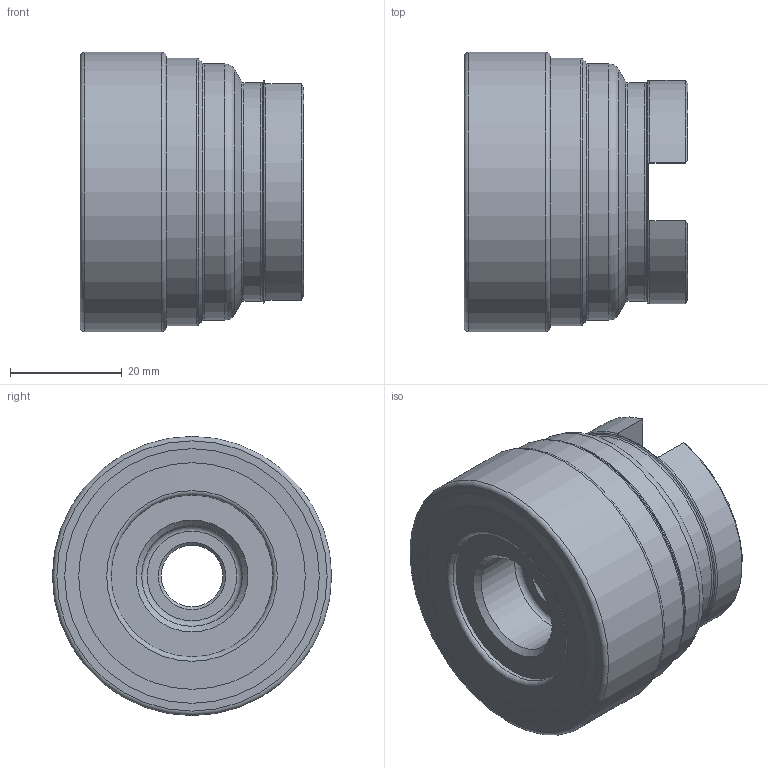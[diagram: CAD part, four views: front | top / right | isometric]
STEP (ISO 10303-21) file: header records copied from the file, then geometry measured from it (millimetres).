
FILE_DESCRIPTION(/* description */ (''),/* implementation_level */ '2;1');
FILE_NAME(/* name */ 'emp13-050-a22-an15-04c.stp',/* time_stamp */ '2018-11-20T13:40:04+08:00',/* author */ (''),/* organization */ (''),/* preprocessor_version */ 'ST-DEVELOPER v11',/* originating_system */ 'UGS - NX 5.0',/* authorisation */ '');
FILE_SCHEMA (('CONFIG_CONTROL_DESIGN'));
Length unit declared in the file: millimetre
Products named in the file (1): wang4F8Ch1k3
Bounding box: 40 x 49.9 x 49.9 mm (x, y, z)
Volume: 68343.9 mm3; surface area: 17030.3 mm2
Topology: 2 solids, 2 shells, 67 faces, 156 edges, 97 vertices
Faces by surface type: plane 22, torus 16, cylinder 15, cone 14
Full cylindrical faces by diameter (mm): 11 x1, 18 x1, 22 x1, 24 x1, 28.9 x1, 39 x1, 45.8 x1, 47.8 x1, 49.9 x1
Entity records: 1900 total; most frequent: CARTESIAN_POINT 508, DIRECTION 276, ORIENTED_EDGE 220, AXIS2_PLACEMENT_3D 126, EDGE_CURVE 110, EDGE_LOOP 108, VERTEX_POINT 84, FACE_BOUND 82
